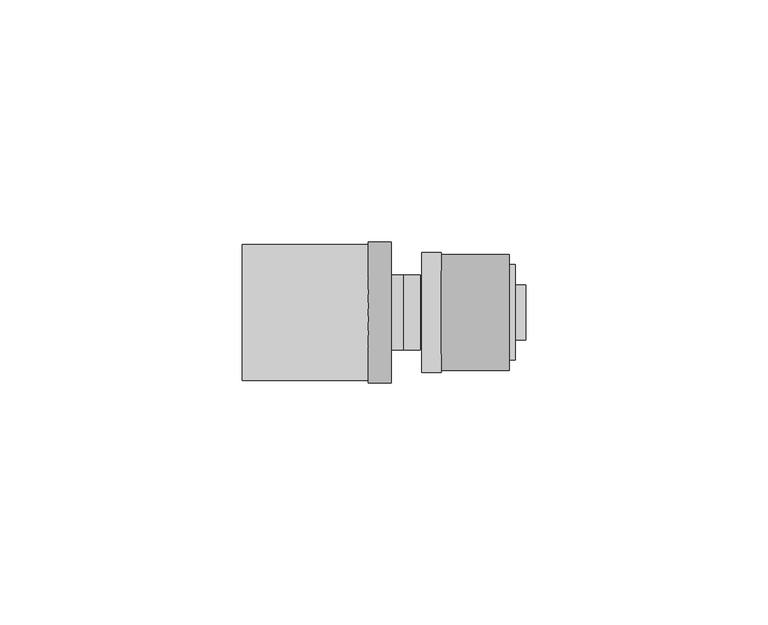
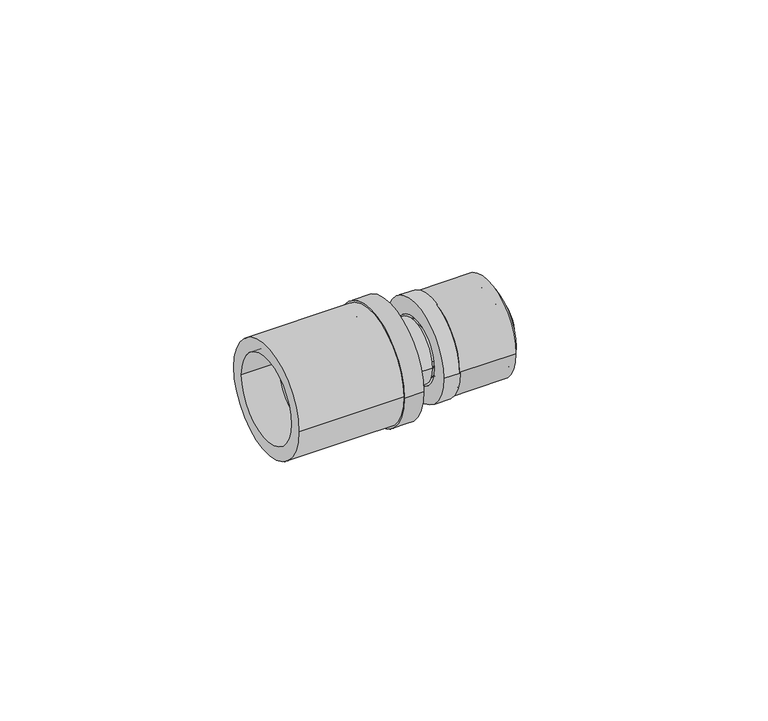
"""IFC4 building model written with IfcOpenShell, lengths in millimetres: pipe fitting geometry, FASTLOC_Coupling reduced EX+ : FSL C RE EX+ AT."""

from ifc_helpers import new_model, si_unit, point, frame, origin, origin_2d, place, context, project, spatial, polyline, circle_curve, trimmed, segment, composite_curve, outline, extrude, source, transform, mapped, element, save
from ifc_brep_helpers import plane_surface, cylinder_surface, revolved_surface, advanced_brep


def pipe_fitting_6195120d(model_context):
    return source(origin(), model_context, "Body", "SolidModel", [
        extrude(outline(composite_curve([segment(trimmed(circle_curve(origin_2d(), 12.0), [point((-12.0, 0.0))], [point((12.0, 0.0))], False, "CARTESIAN"), True, "CONTINUOUS"), segment(trimmed(circle_curve(origin_2d(), 12.0), [point((12.0, 0.0))], [point((-12.0, 0.0))], False, "CARTESIAN"), True, "CONTINUOUS")], self_intersect=False), holes=[composite_curve([segment(trimmed(circle_curve(origin_2d(), 8.85), [point((-8.85, 0.0))], [point((8.85, 0.0))], True, "CARTESIAN"), True, "CONTINUOUS"), segment(trimmed(circle_curve(origin_2d(), 8.85), [point((8.85, 0.0))], [point((-8.85, 0.0))], True, "CARTESIAN"), True, "CONTINUOUS")], self_intersect=False)]), frame((6.3, 0.0, 0.0), z_axis=(1.0, 0.0, 0.0), x_axis=(0.0, 1.0, 0.0)), (0.0, 0.0, 1.0), 14.0),
        advanced_brep(
        [(6.3, 12.35, 0.0), (6.3, -12.35, 0.0), (2.3, -12.35, 0.0), (2.3, 12.35, 0.0), (21.6, 9.85, 0.0), (21.6, -9.85, 0.0), (6.3, -9.85, 0.0), (6.3, 9.85, 0.0), (2.3, 8.15, 0.0), (2.3, -8.15, 0.0), (21.6, -8.15, 0.0), (21.6, 8.15, 0.0)],
        [
            (0, 1, circle_curve(frame((6.3, 0.0, 0.0), z_axis=(-1.0, 0.0, 0.0), x_axis=(0.0, -1.0, 0.0)), 12.35)),
            (1, 2),
            (2, 3, circle_curve(frame((2.3, 0.0, 0.0), z_axis=(1.0, 0.0, 0.0), x_axis=(0.0, -1.0, 0.0)), 12.35)),
            (3, 0),
            (4, 5, circle_curve(frame((21.6, 0.0, 0.0), z_axis=(-1.0, 0.0, 0.0), x_axis=(0.0, -1.0, 0.0)), 9.85)),
            (5, 6),
            (6, 7, circle_curve(frame((6.3, 0.0, 0.0), z_axis=(1.0, 0.0, 0.0), x_axis=(0.0, -1.0, 0.0)), 9.85)),
            (7, 4),
            (8, 9, circle_curve(frame((2.3, 0.0, 0.0), z_axis=(-1.0, 0.0, 0.0), x_axis=(0.0, -1.0, 0.0)), 8.15)),
            (9, 10),
            (10, 11, circle_curve(frame((21.6, 0.0, 0.0), z_axis=(1.0, 0.0, 0.0), x_axis=(0.0, -1.0, 0.0)), 8.15)),
            (11, 8),
            (1, 0, circle_curve(frame((6.3, 0.0, 0.0), z_axis=(-1.0, 0.0, 0.0), x_axis=(0.0, 1.0, 0.0)), 12.35)),
            (3, 2, circle_curve(frame((2.3, 0.0, 0.0), z_axis=(1.0, 0.0, 0.0), x_axis=(0.0, 1.0, 0.0)), 12.35)),
            (6, 7, circle_curve(frame((6.3, 0.0, 0.0), z_axis=(-1.0, 0.0, 0.0), x_axis=(0.0, 1.0, 0.0)), 9.85)),
            (5, 4, circle_curve(frame((21.6, 0.0, 0.0), z_axis=(-1.0, 0.0, 0.0), x_axis=(0.0, 1.0, 0.0)), 9.85)),
            (10, 11, circle_curve(frame((21.6, 0.0, 0.0), z_axis=(-1.0, 0.0, 0.0), x_axis=(0.0, 1.0, 0.0)), 8.15)),
            (9, 8, circle_curve(frame((2.3, 0.0, 0.0), z_axis=(-1.0, 0.0, 0.0), x_axis=(0.0, 1.0, 0.0)), 8.15)),
        ],
        [
            cylinder_surface(frame((2.3, 0.0, 0.0), z_axis=(1.0, 0.0, 0.0), x_axis=(0.0, -1.0, 0.0)), 12.35),
            cylinder_surface(frame((2.3, 0.0, 0.0), z_axis=(1.0, 0.0, 0.0), x_axis=(0.0, -1.0, 0.0)), 9.85),
            revolved_surface(polyline([(21.6, -8.15, 0.0), (2.3, -8.15, 0.0)]), (2.3, 0.0, 0.0), (1.0, 0.0, 0.0)),
            cylinder_surface(frame((2.3, 0.0, 0.0), z_axis=(1.0, 0.0, 0.0), x_axis=(0.0, 1.0, 0.0)), 12.35),
            plane_surface(frame((6.3, 0.0, 0.0), z_axis=(1.0, 0.0, 0.0), x_axis=(0.0, 1.0, 0.0))),
            cylinder_surface(frame((2.3, 0.0, 0.0), z_axis=(1.0, 0.0, 0.0), x_axis=(0.0, 1.0, 0.0)), 9.85),
            plane_surface(frame((21.6, 0.0, 0.0), z_axis=(1.0, 0.0, 0.0), x_axis=(0.0, 1.0, 0.0))),
            revolved_surface(polyline([(21.6, 8.15, 0.0), (2.3, 8.15, 0.0)]), (2.3, 0.0, 0.0), (1.0, 0.0, 0.0)),
            plane_surface(frame((2.3, 0.0, 0.0), z_axis=(-1.0, 0.0, 0.0), x_axis=(0.0, 1.0, 0.0))),
        ],
        [
            (0, [[1, 2, 3, 4]]),
            (1, [[5, 6, 7, 8]]),
            (2, [[9, 10, 11, 12]]),
            (3, [[13, -4, 14, -2]]),
            (4, [[-13, -1], [15, -7]]),
            (5, [[16, -8, -15, -6]]),
            (6, [[-16, -5], [17, -11]]),
            (7, [[18, -12, -17, -10]]),
            (8, [[-14, -3], [-18, -9]]),
        ],
    ),
        extrude(outline(composite_curve([segment(trimmed(circle_curve(origin_2d(), 14.0), [point((14.0, 0.0))], [point((-14.0, 0.0))], False, "CARTESIAN"), True, "CONTINUOUS"), segment(trimmed(circle_curve(origin_2d(), 14.0), [point((-14.0, 0.0))], [point((14.0, 0.0))], False, "CARTESIAN"), True, "CONTINUOUS")], self_intersect=False), holes=[composite_curve([segment(trimmed(circle_curve(origin_2d(), 10.7), [point((10.7, 0.0))], [point((-10.7, 0.0))], True, "CARTESIAN"), True, "CONTINUOUS"), segment(trimmed(circle_curve(origin_2d(), 10.7), [point((-10.7, 0.0))], [point((10.7, 0.0))], True, "CARTESIAN"), True, "CONTINUOUS")], self_intersect=False)]), frame((-34.7, 0.0, 0.0), z_axis=(1.0, 0.0, 0.0), x_axis=(0.0, 1.0, 0.0)), (0.0, 0.0, 1.0), 26.0),
        advanced_brep(
        [(-8.7, -14.5, 0.0), (-8.7, 14.5, 0.0), (-4.0, 14.5, 0.0), (-4.0, -14.5, 0.0), (-25.7, -11.85, 0.0), (-25.7, 11.85, 0.0), (-8.7, 11.85, 0.0), (-8.7, -11.85, 0.0), (-4.0, -10.15, 0.0), (-4.0, 10.15, 0.0), (-25.7, 10.15, 0.0), (-25.7, -10.15, 0.0)],
        [
            (0, 1, circle_curve(frame((-8.7, 0.0, 0.0), z_axis=(1.0, 0.0, 0.0), x_axis=(0.0, 1.0, 0.0)), 14.5)),
            (1, 2),
            (2, 3, circle_curve(frame((-4.0, 0.0, 0.0), z_axis=(-1.0, 0.0, 0.0), x_axis=(0.0, 1.0, 0.0)), 14.5)),
            (3, 0),
            (4, 5, circle_curve(frame((-25.7, 0.0, 0.0), z_axis=(1.0, 0.0, 0.0), x_axis=(0.0, 1.0, 0.0)), 11.85)),
            (5, 6),
            (6, 7, circle_curve(frame((-8.7, 0.0, 0.0), z_axis=(-1.0, 0.0, 0.0), x_axis=(0.0, 1.0, 0.0)), 11.85)),
            (7, 4),
            (8, 9, circle_curve(frame((-4.0, 0.0, 0.0), z_axis=(1.0, 0.0, 0.0), x_axis=(0.0, 1.0, 0.0)), 10.15)),
            (9, 10),
            (10, 11, circle_curve(frame((-25.7, 0.0, 0.0), z_axis=(-1.0, 0.0, 0.0), x_axis=(0.0, 1.0, 0.0)), 10.15)),
            (11, 8),
            (1, 0, circle_curve(frame((-8.7, 0.0, 0.0), z_axis=(1.0, 0.0, 0.0), x_axis=(0.0, -1.0, 0.0)), 14.5)),
            (3, 2, circle_curve(frame((-4.0, 0.0, 0.0), z_axis=(-1.0, 0.0, 0.0), x_axis=(0.0, -1.0, 0.0)), 14.5)),
            (6, 7, circle_curve(frame((-8.7, 0.0, 0.0), z_axis=(1.0, 0.0, 0.0), x_axis=(0.0, -1.0, 0.0)), 11.85)),
            (5, 4, circle_curve(frame((-25.7, 0.0, 0.0), z_axis=(1.0, 0.0, 0.0), x_axis=(0.0, -1.0, 0.0)), 11.85)),
            (10, 11, circle_curve(frame((-25.7, 0.0, 0.0), z_axis=(1.0, 0.0, 0.0), x_axis=(0.0, -1.0, 0.0)), 10.15)),
            (9, 8, circle_curve(frame((-4.0, 0.0, 0.0), z_axis=(1.0, 0.0, 0.0), x_axis=(0.0, -1.0, 0.0)), 10.15)),
        ],
        [
            cylinder_surface(frame((-4.0, 0.0, 0.0), z_axis=(-1.0, 0.0, 0.0), x_axis=(0.0, 1.0, 0.0)), 14.5),
            cylinder_surface(frame((-4.0, 0.0, 0.0), z_axis=(-1.0, 0.0, 0.0), x_axis=(0.0, 1.0, 0.0)), 11.85),
            revolved_surface(polyline([(-25.7, 10.15, 0.0), (-4.0, 10.15, 0.0)]), (-4.0, 0.0, 0.0), (-1.0, 0.0, 0.0)),
            cylinder_surface(frame((-4.0, 0.0, 0.0), z_axis=(-1.0, 0.0, 0.0), x_axis=(0.0, -1.0, 0.0)), 14.5),
            plane_surface(frame((-8.7, 0.0, 0.0), z_axis=(-1.0, 0.0, 0.0), x_axis=(0.0, -1.0, 0.0))),
            cylinder_surface(frame((-4.0, 0.0, 0.0), z_axis=(-1.0, 0.0, 0.0), x_axis=(0.0, -1.0, 0.0)), 11.85),
            plane_surface(frame((-25.7, 0.0, 0.0), z_axis=(-1.0, 0.0, 0.0), x_axis=(0.0, -1.0, 0.0))),
            revolved_surface(polyline([(-25.7, -10.15, 0.0), (-4.0, -10.15, 0.0)]), (-4.0, 0.0, 0.0), (-1.0, 0.0, 0.0)),
            plane_surface(frame((-4.0, 0.0, 0.0), z_axis=(1.0, 0.0, 0.0), x_axis=(0.0, -1.0, 0.0))),
        ],
        [
            (0, [[1, 2, 3, 4]]),
            (1, [[5, 6, 7, 8]]),
            (2, [[9, 10, 11, 12]]),
            (3, [[13, -4, 14, -2]]),
            (4, [[-13, -1], [15, -7]]),
            (5, [[16, -8, -15, -6]]),
            (6, [[-16, -5], [17, -11]]),
            (7, [[18, -12, -17, -10]]),
            (8, [[-14, -3], [-18, -9]]),
        ],
    ),
        advanced_brep(
        [(-1.5, 7.75, 0.0), (-1.5, -7.75, 0.0), (-6.0, -7.75, 0.0), (-6.0, 7.75, 0.0), (-6.0, 8.8, 0.0), (-6.0, -8.8, 0.0), (-8.7, -8.8, 0.0), (-8.7, 8.8, 0.0), (-8.7, 7.75, 0.0), (-8.7, -7.75, 0.0), (-23.7, -7.75, 0.0), (-23.7, 7.75, 0.0), (-23.7, 5.75, 0.0), (-23.7, -5.75, 0.0), (-1.5, -5.75, 0.0), (-1.5, 5.75, 0.0), (2.0, 7.75, 0.0), (2.0, -7.75, 0.0), (3.6, 5.65, 0.0), (3.6, -5.65, 0.0), (2.0, -5.65, 0.0), (2.0, 5.65, 0.0), (6.3, 6.75, 0.0), (6.3, -6.75, 0.0), (3.6, -6.75, 0.0), (3.6, 6.75, 0.0), (23.7, 5.6229189, 0.0), (23.7, -5.6229189, 0.0), (6.3, -5.6229189, 0.0), (6.3, 5.6229189, 0.0), (-1.5, 3.8, 0.0), (-1.5, -3.8, 0.0), (23.7, -3.8, 0.0), (23.7, 3.8, 0.0)],
        [
            (0, 1, circle_curve(frame((-1.5, 0.0, 0.0), z_axis=(-1.0, 0.0, 0.0), x_axis=(0.0, -1.0, 0.0)), 7.75)),
            (1, 2),
            (2, 3, circle_curve(frame((-6.0, 0.0, 0.0), z_axis=(1.0, 0.0, 0.0), x_axis=(0.0, -1.0, 0.0)), 7.75)),
            (3, 0),
            (4, 5, circle_curve(frame((-6.0, 0.0, 0.0), z_axis=(-1.0, 0.0, 0.0), x_axis=(0.0, -1.0, 0.0)), 8.8)),
            (5, 6),
            (6, 7, circle_curve(frame((-8.7, 0.0, 0.0), z_axis=(1.0, 0.0, 0.0), x_axis=(0.0, -1.0, 0.0)), 8.8)),
            (7, 4),
            (8, 9, circle_curve(frame((-8.7, 0.0, 0.0), z_axis=(-1.0, 0.0, 0.0), x_axis=(0.0, -1.0, 0.0)), 7.75)),
            (9, 10),
            (10, 11, circle_curve(frame((-23.7, 0.0, 0.0), z_axis=(1.0, 0.0, 0.0), x_axis=(0.0, -1.0, 0.0)), 7.75)),
            (11, 8),
            (12, 13, circle_curve(frame((-23.7, 0.0, 0.0), z_axis=(-1.0, 0.0, 0.0), x_axis=(0.0, -1.0, 0.0)), 5.75)),
            (13, 14),
            (14, 15, circle_curve(frame((-1.5, 0.0, 0.0), z_axis=(1.0, 0.0, 0.0), x_axis=(0.0, -1.0, 0.0)), 5.75)),
            (15, 12),
            (1, 0, circle_curve(frame((-1.5, 0.0, 0.0), z_axis=(-1.0, 0.0, 0.0), x_axis=(0.0, 1.0, 0.0)), 7.75)),
            (3, 2, circle_curve(frame((-6.0, 0.0, 0.0), z_axis=(1.0, 0.0, 0.0), x_axis=(0.0, 1.0, 0.0)), 7.75)),
            (4, 5, circle_curve(frame((-6.0, 0.0, 0.0), z_axis=(1.0, 0.0, 0.0), x_axis=(0.0, 1.0, 0.0)), 8.8)),
            (7, 6, circle_curve(frame((-8.7, 0.0, 0.0), z_axis=(1.0, 0.0, 0.0), x_axis=(0.0, 1.0, 0.0)), 8.8)),
            (8, 9, circle_curve(frame((-8.7, 0.0, 0.0), z_axis=(1.0, 0.0, 0.0), x_axis=(0.0, 1.0, 0.0)), 7.75)),
            (11, 10, circle_curve(frame((-23.7, 0.0, 0.0), z_axis=(1.0, 0.0, 0.0), x_axis=(0.0, 1.0, 0.0)), 7.75)),
            (12, 13, circle_curve(frame((-23.7, 0.0, 0.0), z_axis=(1.0, 0.0, 0.0), x_axis=(0.0, 1.0, 0.0)), 5.75)),
            (15, 14, circle_curve(frame((-1.5, 0.0, 0.0), z_axis=(1.0, 0.0, 0.0), x_axis=(0.0, 1.0, 0.0)), 5.75)),
            (16, 17, circle_curve(frame((2.0, 0.0, 0.0), z_axis=(-1.0, 0.0, 0.0), x_axis=(0.0, -1.0, 0.0)), 7.75)),
            (17, 1),
            (0, 16),
            (18, 19, circle_curve(frame((3.6, 0.0, 0.0), z_axis=(-1.0, 0.0, 0.0), x_axis=(0.0, -1.0, 0.0)), 5.65)),
            (19, 20),
            (20, 21, circle_curve(frame((2.0, 0.0, 0.0), z_axis=(1.0, 0.0, 0.0), x_axis=(0.0, -1.0, 0.0)), 5.65)),
            (21, 18),
            (22, 23, circle_curve(frame((6.3, 0.0, 0.0), z_axis=(-1.0, 0.0, 0.0), x_axis=(0.0, -1.0, 0.0)), 6.75)),
            (23, 24),
            (24, 25, circle_curve(frame((3.6, 0.0, 0.0), z_axis=(1.0, 0.0, 0.0), x_axis=(0.0, -1.0, 0.0)), 6.75)),
            (25, 22),
            (26, 27, circle_curve(frame((23.7, 0.0, 0.0), z_axis=(-1.0, 0.0, 0.0), x_axis=(0.0, -1.0, 0.0)), 5.6229189)),
            (27, 28),
            (28, 29, circle_curve(frame((6.3, 0.0, 0.0), z_axis=(1.0, 0.0, 0.0), x_axis=(0.0, -1.0, 0.0)), 5.6229189)),
            (29, 26),
            (30, 31, circle_curve(frame((-1.5, 0.0, 0.0), z_axis=(-1.0, 0.0, 0.0), x_axis=(0.0, -1.0, 0.0)), 3.8)),
            (31, 32),
            (32, 33, circle_curve(frame((23.7, 0.0, 0.0), z_axis=(1.0, 0.0, 0.0), x_axis=(0.0, -1.0, 0.0)), 3.8)),
            (33, 30),
            (17, 16, circle_curve(frame((2.0, 0.0, 0.0), z_axis=(-1.0, 0.0, 0.0), x_axis=(0.0, 1.0, 0.0)), 7.75)),
            (20, 21, circle_curve(frame((2.0, 0.0, 0.0), z_axis=(-1.0, 0.0, 0.0), x_axis=(0.0, 1.0, 0.0)), 5.65)),
            (19, 18, circle_curve(frame((3.6, 0.0, 0.0), z_axis=(-1.0, 0.0, 0.0), x_axis=(0.0, 1.0, 0.0)), 5.65)),
            (24, 25, circle_curve(frame((3.6, 0.0, 0.0), z_axis=(-1.0, 0.0, 0.0), x_axis=(0.0, 1.0, 0.0)), 6.75)),
            (23, 22, circle_curve(frame((6.3, 0.0, 0.0), z_axis=(-1.0, 0.0, 0.0), x_axis=(0.0, 1.0, 0.0)), 6.75)),
            (28, 29, circle_curve(frame((6.3, 0.0, 0.0), z_axis=(-1.0, 0.0, 0.0), x_axis=(0.0, 1.0, 0.0)), 5.6229189)),
            (27, 26, circle_curve(frame((23.7, 0.0, 0.0), z_axis=(-1.0, 0.0, 0.0), x_axis=(0.0, 1.0, 0.0)), 5.6229189)),
            (32, 33, circle_curve(frame((23.7, 0.0, 0.0), z_axis=(-1.0, 0.0, 0.0), x_axis=(0.0, 1.0, 0.0)), 3.8)),
            (31, 30, circle_curve(frame((-1.5, 0.0, 0.0), z_axis=(-1.0, 0.0, 0.0), x_axis=(0.0, 1.0, 0.0)), 3.8)),
        ],
        [
            cylinder_surface(frame((0.0, 0.0, 0.0), z_axis=(1.0, 0.0, 0.0), x_axis=(0.0, -1.0, 0.0)), 7.75),
            cylinder_surface(frame((0.0, 0.0, 0.0), z_axis=(1.0, 0.0, 0.0), x_axis=(0.0, -1.0, 0.0)), 8.8),
            revolved_surface(polyline([(-1.5, -5.75, 0.0), (-23.7, -5.75, 0.0)]), (0.0, 0.0, 0.0), (1.0, 0.0, 0.0)),
            cylinder_surface(frame((0.0, 0.0, 0.0), z_axis=(1.0, 0.0, 0.0), x_axis=(0.0, 1.0, 0.0)), 7.75),
            plane_surface(frame((-6.0, 0.0, 0.0), z_axis=(1.0, 0.0, 0.0), x_axis=(0.0, 1.0, 0.0))),
            cylinder_surface(frame((0.0, 0.0, 0.0), z_axis=(1.0, 0.0, 0.0), x_axis=(0.0, 1.0, 0.0)), 8.8),
            plane_surface(frame((-8.7, 0.0, 0.0), z_axis=(-1.0, 0.0, 0.0), x_axis=(0.0, 1.0, 0.0))),
            plane_surface(frame((-23.7, 0.0, 0.0), z_axis=(-1.0, 0.0, 0.0), x_axis=(0.0, 1.0, 0.0))),
            revolved_surface(polyline([(-1.5, 5.75, 0.0), (-23.7, 5.75, 0.0)]), (0.0, 0.0, 0.0), (1.0, 0.0, 0.0)),
            cylinder_surface(frame((0.0, 0.0, 0.0), z_axis=(1.0, 0.0, 0.0), x_axis=(0.0, -1.0, 0.0)), 5.65),
            cylinder_surface(frame((0.0, 0.0, 0.0), z_axis=(1.0, 0.0, 0.0), x_axis=(0.0, -1.0, 0.0)), 6.75),
            cylinder_surface(frame((0.0, 0.0, 0.0), z_axis=(1.0, 0.0, 0.0), x_axis=(0.0, -1.0, 0.0)), 5.6229189),
            revolved_surface(polyline([(23.7, -3.8, 0.0), (-1.5, -3.8, 0.0)]), (0.0, 0.0, 0.0), (1.0, 0.0, 0.0)),
            plane_surface(frame((2.0, 0.0, 0.0), z_axis=(1.0, 0.0, 0.0), x_axis=(0.0, 1.0, 0.0))),
            cylinder_surface(frame((0.0, 0.0, 0.0), z_axis=(1.0, 0.0, 0.0), x_axis=(0.0, 1.0, 0.0)), 5.65),
            plane_surface(frame((3.6, 0.0, 0.0), z_axis=(-1.0, 0.0, 0.0), x_axis=(0.0, 1.0, 0.0))),
            cylinder_surface(frame((0.0, 0.0, 0.0), z_axis=(1.0, 0.0, 0.0), x_axis=(0.0, 1.0, 0.0)), 6.75),
            plane_surface(frame((6.3, 0.0, 0.0), z_axis=(1.0, 0.0, 0.0), x_axis=(0.0, 1.0, 0.0))),
            cylinder_surface(frame((0.0, 0.0, 0.0), z_axis=(1.0, 0.0, 0.0), x_axis=(0.0, 1.0, 0.0)), 5.6229189),
            plane_surface(frame((23.7, 0.0, 0.0), z_axis=(1.0, 0.0, 0.0), x_axis=(0.0, 1.0, 0.0))),
            revolved_surface(polyline([(23.7, 3.8, 0.0), (-1.5, 3.8, 0.0)]), (0.0, 0.0, 0.0), (1.0, 0.0, 0.0)),
            plane_surface(frame((-1.5, 0.0, 0.0), z_axis=(-1.0, 0.0, 0.0), x_axis=(0.0, 1.0, 0.0))),
        ],
        [
            (0, [[1, 2, 3, 4]]),
            (1, [[5, 6, 7, 8]]),
            (0, [[9, 10, 11, 12]]),
            (2, [[13, 14, 15, 16]]),
            (3, [[17, -4, 18, -2]]),
            (4, [[19, -5], [-18, -3]]),
            (5, [[-19, -8, 20, -6]]),
            (6, [[-20, -7], [21, -9]]),
            (3, [[-21, -12, 22, -10]]),
            (7, [[-22, -11], [23, -13]]),
            (8, [[-23, -16, 24, -14]]),
            (0, [[25, 26, -1, 27]]),
            (9, [[28, 29, 30, 31]]),
            (10, [[32, 33, 34, 35]]),
            (11, [[36, 37, 38, 39]]),
            (12, [[40, 41, 42, 43]]),
            (3, [[44, -27, -17, -26]]),
            (13, [[-44, -25], [45, -30]]),
            (14, [[46, -31, -45, -29]]),
            (15, [[47, -34], [-46, -28]]),
            (16, [[48, -35, -47, -33]]),
            (17, [[-48, -32], [49, -38]]),
            (18, [[50, -39, -49, -37]]),
            (19, [[-50, -36], [51, -42]]),
            (20, [[52, -43, -51, -41]]),
            (21, [[-24, -15], [-52, -40]]),
        ],
    ),
    ])


if __name__ == "__main__":
    model = new_model("IFC4")
    model_context = context("Model", 3, world=origin())
    ifc_project = project(units=[si_unit("LENGTHUNIT", "METRE", prefix="MILLI")], contexts=[model_context])
    site = spatial("IfcSite", under=ifc_project)
    building = spatial("IfcBuilding", under=site)
    placement = place(None, origin())
    pipe_fitting_shape = pipe_fitting_6195120d(model_context)
    element("IfcPipeFitting", 1, ObjectType="FASTLOC_Coupling reduced EX+ : FSL C RE EX+ AT", at=placement, inside=building, context=model_context, shape_type="MappedRepresentation", body=[
        mapped(pipe_fitting_shape, transform((0.0, 0.0, 0.0), x_axis=(1.0, 0.0, 0.0), y_axis=(0.0, 1.0, 0.0), z_axis=(0.0, 0.0, 1.0))),
    ])
    save(model, "model.ifc")
